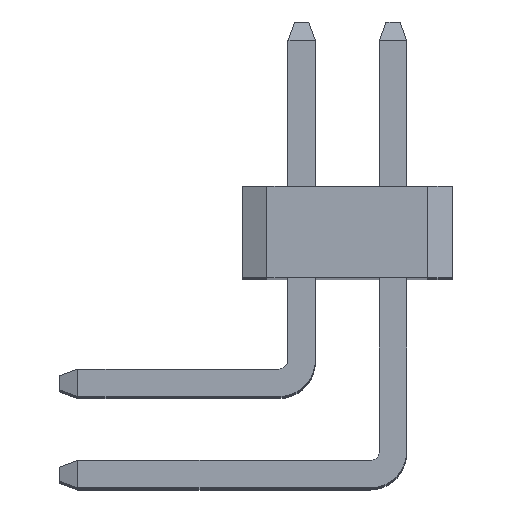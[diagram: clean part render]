
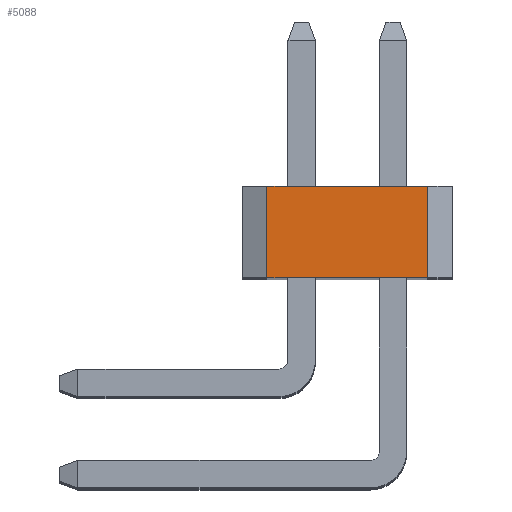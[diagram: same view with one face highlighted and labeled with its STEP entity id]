
A CAD part, top view. The second image highlights one B-rep face of the part: STEP entity #5088.
In plain terms, the highlighted planar face has unit normal (0, 0, 1).
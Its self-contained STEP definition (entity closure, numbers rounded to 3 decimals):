
#72 = DIRECTION ( 'NONE',  ( 0., 1., 0. ) ) ;
#1009 = DIRECTION ( 'NONE',  ( 1., 0., 0. ) ) ;
#3099 = DIRECTION ( 'NONE',  ( 1., 0., 0. ) ) ;
#4715 = VECTOR ( 'NONE', #19797, 1000. ) ;
#4805 = VERTEX_POINT ( 'NONE', #13989 ) ;
#5088 = ADVANCED_FACE ( 'NONE', ( #9176 ), #18223, .F. ) ;
#5266 = ORIENTED_EDGE ( 'NONE', *, *, #7083, .T. ) ;
#5495 = EDGE_CURVE ( 'NONE', #14444, #13214, #22890, .T. ) ;
#5747 = LINE ( 'NONE', #23841, #14159 ) ;
#7083 = EDGE_CURVE ( 'NONE', #4805, #13214, #22338, .T. ) ;
#7570 = ORIENTED_EDGE ( 'NONE', *, *, #7730, .T. ) ;
#7730 = EDGE_CURVE ( 'NONE', #14444, #10394, #5747, .T. ) ;
#9176 = FACE_OUTER_BOUND ( 'NONE', #23517, .T. ) ;
#10394 = VERTEX_POINT ( 'NONE', #13598 ) ;
#11103 = VECTOR ( 'NONE', #16879, 1000. ) ;
#11445 = CARTESIAN_POINT ( 'NONE',  ( -0.815, -0.411, 12.5 ) ) ;
#13214 = VERTEX_POINT ( 'NONE', #25003 ) ;
#13598 = CARTESIAN_POINT ( 'NONE',  ( 0.945, -0.411, 12.5 ) ) ;
#13989 = CARTESIAN_POINT ( 'NONE',  ( 0.945, 0.589, 12.5 ) ) ;
#14159 = VECTOR ( 'NONE', #1009, 1000. ) ;
#14444 = VERTEX_POINT ( 'NONE', #24032 ) ;
#14974 = ORIENTED_EDGE ( 'NONE', *, *, #5495, .F. ) ;
#16280 = CARTESIAN_POINT ( 'NONE',  ( 0., 0., 12.5 ) ) ;
#16879 = DIRECTION ( 'NONE',  ( 0., 1., 0. ) ) ;
#17915 = ORIENTED_EDGE ( 'NONE', *, *, #19834, .T. ) ;
#18223 = PLANE ( 'NONE',  #18227 ) ;
#18227 = AXIS2_PLACEMENT_3D ( 'NONE', #16280, #28088, #3099 ) ;
#18927 = CARTESIAN_POINT ( 'NONE',  ( 0.945, -0.411, 12.5 ) ) ;
#19797 = DIRECTION ( 'NONE',  ( -1., 0., 0. ) ) ;
#19834 = EDGE_CURVE ( 'NONE', #10394, #4805, #23263, .T. ) ;
#22338 = LINE ( 'NONE', #28972, #4715 ) ;
#22890 = LINE ( 'NONE', #11445, #22954 ) ;
#22954 = VECTOR ( 'NONE', #72, 1000. ) ;
#23263 = LINE ( 'NONE', #18927, #11103 ) ;
#23517 = EDGE_LOOP ( 'NONE', ( #5266, #14974, #7570, #17915 ) ) ;
#23841 = CARTESIAN_POINT ( 'NONE',  ( -1.085, -0.411, 12.5 ) ) ;
#24032 = CARTESIAN_POINT ( 'NONE',  ( -0.815, -0.411, 12.5 ) ) ;
#25003 = CARTESIAN_POINT ( 'NONE',  ( -0.815, 0.589, 12.5 ) ) ;
#28088 = DIRECTION ( 'NONE',  ( 0., 0., -1. ) ) ;
#28972 = CARTESIAN_POINT ( 'NONE',  ( -1.085, 0.589, 12.5 ) ) ;
